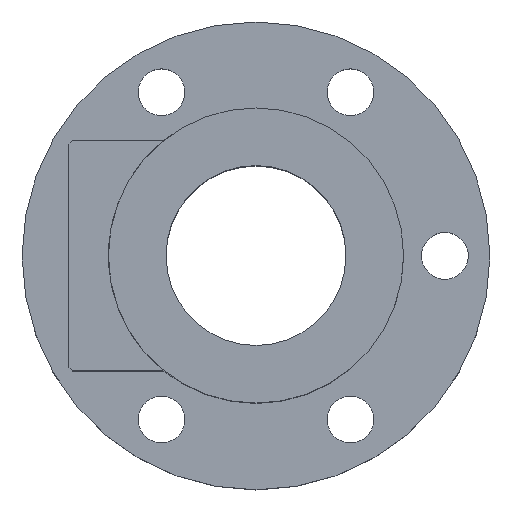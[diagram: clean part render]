
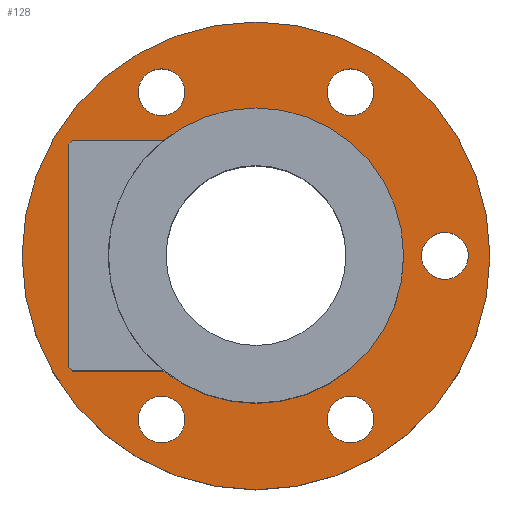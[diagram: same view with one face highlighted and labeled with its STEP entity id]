
A CAD part, top view. The second image highlights one B-rep face of the part: STEP entity #128.
In plain terms, the highlighted planar face has unit normal (0, 0, 1).
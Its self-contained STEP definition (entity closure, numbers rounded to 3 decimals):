
#97=PLANE('',#515);
#112=FACE_OUTER_BOUND('',#251,.T.);
#128=ADVANCED_FACE('',(#203,#204,#205,#112,#206,#207,#208),#97,.T.);
#203=FACE_BOUND('',#248,.T.);
#204=FACE_BOUND('',#249,.T.);
#205=FACE_BOUND('',#250,.T.);
#206=FACE_BOUND('',#252,.T.);
#207=FACE_BOUND('',#253,.T.);
#208=FACE_BOUND('',#254,.T.);
#248=EDGE_LOOP('',(#311));
#249=EDGE_LOOP('',(#312));
#250=EDGE_LOOP('',(#313));
#251=EDGE_LOOP('',(#314));
#252=EDGE_LOOP('',(#315));
#253=EDGE_LOOP('',(#316));
#254=EDGE_LOOP('',(#317));
#311=ORIENTED_EDGE('',*,*,#437,.F.);
#312=ORIENTED_EDGE('',*,*,#438,.F.);
#313=ORIENTED_EDGE('',*,*,#432,.F.);
#314=ORIENTED_EDGE('',*,*,#439,.T.);
#315=ORIENTED_EDGE('',*,*,#440,.F.);
#316=ORIENTED_EDGE('',*,*,#441,.F.);
#317=ORIENTED_EDGE('',*,*,#442,.F.);
#394=VERTEX_POINT('',#694);
#399=VERTEX_POINT('',#705);
#400=VERTEX_POINT('',#707);
#401=VERTEX_POINT('',#709);
#402=VERTEX_POINT('',#711);
#403=VERTEX_POINT('',#713);
#404=VERTEX_POINT('',#715);
#432=EDGE_CURVE('',#394,#394,#476,.T.);
#437=EDGE_CURVE('',#399,#399,#479,.T.);
#438=EDGE_CURVE('',#400,#400,#480,.T.);
#439=EDGE_CURVE('',#401,#401,#481,.T.);
#440=EDGE_CURVE('',#402,#402,#482,.T.);
#441=EDGE_CURVE('',#403,#403,#483,.T.);
#442=EDGE_CURVE('',#404,#404,#484,.T.);
#476=CIRCLE('',#505,41.);
#479=CIRCLE('',#509,6.5);
#480=CIRCLE('',#510,6.5);
#481=CIRCLE('',#511,65.);
#482=CIRCLE('',#512,6.5);
#483=CIRCLE('',#513,6.5);
#484=CIRCLE('',#514,6.5);
#505=AXIS2_PLACEMENT_3D('',#693,#564,#565);
#509=AXIS2_PLACEMENT_3D('',#704,#574,#575);
#510=AXIS2_PLACEMENT_3D('',#706,#576,#577);
#511=AXIS2_PLACEMENT_3D('',#708,#578,#579);
#512=AXIS2_PLACEMENT_3D('',#710,#580,#581);
#513=AXIS2_PLACEMENT_3D('',#712,#582,#583);
#514=AXIS2_PLACEMENT_3D('',#714,#584,#585);
#515=AXIS2_PLACEMENT_3D('',#716,#586,#587);
#564=DIRECTION('',(0.,0.,1.));
#565=DIRECTION('',(1.,0.,0.));
#574=DIRECTION('',(0.,0.,1.));
#575=DIRECTION('',(-0.5,-0.866,0.));
#576=DIRECTION('',(0.,0.,1.));
#577=DIRECTION('',(0.5,0.866,0.));
#578=DIRECTION('',(0.,0.,1.));
#579=DIRECTION('',(1.,0.,0.));
#580=DIRECTION('',(0.,0.,1.));
#581=DIRECTION('',(1.,0.,0.));
#582=DIRECTION('',(0.,0.,1.));
#583=DIRECTION('',(-1.,0.,0.));
#584=DIRECTION('',(0.,0.,1.));
#585=DIRECTION('',(0.5,-0.866,0.));
#586=DIRECTION('',(0.,0.,1.));
#587=DIRECTION('',(1.,0.,0.));
#693=CARTESIAN_POINT('',(0.,0.,22.));
#694=CARTESIAN_POINT('',(41.,0.,22.));
#704=CARTESIAN_POINT('',(26.25,-45.466,22.));
#705=CARTESIAN_POINT('',(23.,-51.095,22.));
#706=CARTESIAN_POINT('',(-26.25,45.466,22.));
#707=CARTESIAN_POINT('',(-23.,51.095,22.));
#708=CARTESIAN_POINT('',(0.,0.,22.));
#709=CARTESIAN_POINT('',(65.,0.,22.));
#710=CARTESIAN_POINT('',(26.25,45.466,22.));
#711=CARTESIAN_POINT('',(32.75,45.466,22.));
#712=CARTESIAN_POINT('',(-26.25,-45.466,22.));
#713=CARTESIAN_POINT('',(-32.75,-45.466,22.));
#714=CARTESIAN_POINT('',(52.5,0.,22.));
#715=CARTESIAN_POINT('',(55.75,-5.629,22.));
#716=CARTESIAN_POINT('',(0.,0.,22.));
